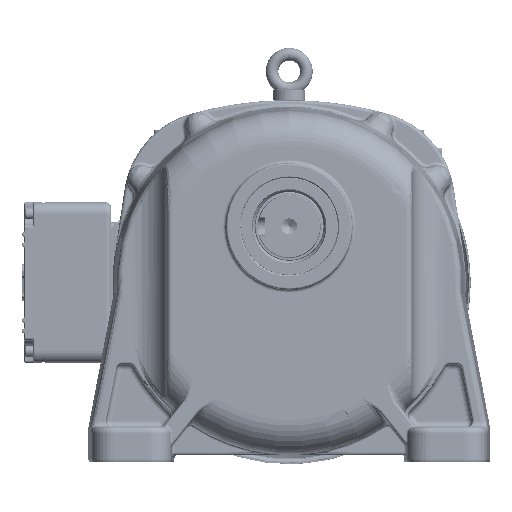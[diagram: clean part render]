
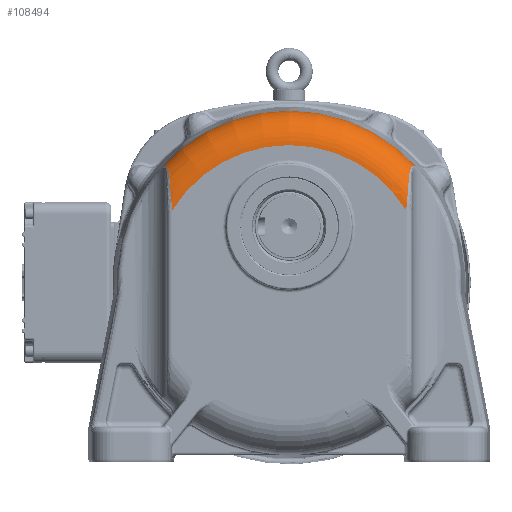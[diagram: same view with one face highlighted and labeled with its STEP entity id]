
A CAD part, front view. The second image highlights one B-rep face of the part: STEP entity #108494.
In plain terms, the highlighted toroidal (fillet/blend) face has major radius 119.862 mm and minor radius 30 mm.
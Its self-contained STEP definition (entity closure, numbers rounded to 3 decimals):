
#2624=TOROIDAL_SURFACE('',#118941,119.862,30.);
#4332=B_SPLINE_CURVE_WITH_KNOTS('',3,(#208681,#208682,#208683,#208684,#208685),
 .UNSPECIFIED.,.F.,.F.,(4,1,4),(-2.599,-1.114,0.),
 .UNSPECIFIED.);
#4334=B_SPLINE_CURVE_WITH_KNOTS('',3,(#208739,#208740,#208741,#208742,#208743,
#208744,#208745,#208746,#208747),.UNSPECIFIED.,.F.,.F.,(4,1,1,1,1,1,4),
(-2.566,-2.199,-1.833,-1.466,
-1.1,-0.367,0.),
 .UNSPECIFIED.);
#4339=B_SPLINE_CURVE_WITH_KNOTS('',3,(#208829,#208830,#208831,#208832,#208833,
#208834,#208835,#208836,#208837),.UNSPECIFIED.,.F.,.F.,(4,1,1,1,1,1,4),
(0.,0.367,1.1,1.466,1.833,
2.199,2.566),.UNSPECIFIED.);
#4340=B_SPLINE_CURVE_WITH_KNOTS('',3,(#208838,#208839,#208840,#208841,#208842),
 .UNSPECIFIED.,.F.,.F.,(4,1,4),(-2.599,-1.114,0.),
 .UNSPECIFIED.);
#12586=FACE_OUTER_BOUND('',#19252,.T.);
#19252=EDGE_LOOP('',(#86742,#86743,#86744,#86745,#86746,#86747));
#38851=CIRCLE('',#118298,119.862);
#39225=CIRCLE('',#118942,149.849);
#46263=VERTEX_POINT('',#201523);
#46264=VERTEX_POINT('',#201525);
#46786=VERTEX_POINT('',#208679);
#46788=VERTEX_POINT('',#208737);
#46790=VERTEX_POINT('',#208826);
#46791=VERTEX_POINT('',#208828);
#59699=EDGE_CURVE('',#46264,#46263,#38851,.T.);
#60570=EDGE_CURVE('',#46786,#46263,#4332,.T.);
#60573=EDGE_CURVE('',#46788,#46786,#4334,.T.);
#60580=EDGE_CURVE('',#46788,#46790,#39225,.T.);
#60581=EDGE_CURVE('',#46791,#46790,#4339,.T.);
#60582=EDGE_CURVE('',#46264,#46791,#4340,.T.);
#86742=ORIENTED_EDGE('',*,*,#60570,.F.);
#86743=ORIENTED_EDGE('',*,*,#60573,.F.);
#86744=ORIENTED_EDGE('',*,*,#60580,.T.);
#86745=ORIENTED_EDGE('',*,*,#60581,.F.);
#86746=ORIENTED_EDGE('',*,*,#60582,.F.);
#86747=ORIENTED_EDGE('',*,*,#59699,.T.);
#108494=ADVANCED_FACE('',(#12586),#2624,.T.);
#118298=AXIS2_PLACEMENT_3D('',#201526,#140914,#140915);
#118941=AXIS2_PLACEMENT_3D('',#208825,#142446,#142447);
#118942=AXIS2_PLACEMENT_3D('',#208827,#142448,#142449);
#140914=DIRECTION('center_axis',(0.,1.,0.));
#140915=DIRECTION('ref_axis',(-1.,0.,0.));
#142446=DIRECTION('center_axis',(0.,1.,0.));
#142447=DIRECTION('ref_axis',(0.,0.,1.));
#142448=DIRECTION('center_axis',(0.,-1.,0.));
#142449=DIRECTION('ref_axis',(-1.,0.,0.));
#201523=CARTESIAN_POINT('',(89.309,-190.758,61.201));
#201525=CARTESIAN_POINT('',(-114.691,-190.758,61.201));
#201526=CARTESIAN_POINT('Origin',(-12.691,-190.758,-1.75));
#208679=CARTESIAN_POINT('',(91.578,-184.758,88.438));
#208681=CARTESIAN_POINT('Ctrl Pts',(91.578,-184.758,
88.438));
#208682=CARTESIAN_POINT('Ctrl Pts',(91.187,-187.374,
83.558));
#208683=CARTESIAN_POINT('Ctrl Pts',(90.427,-190.123,
74.349));
#208684=CARTESIAN_POINT('Ctrl Pts',(89.641,-190.758,
65.118));
#208685=CARTESIAN_POINT('Ctrl Pts',(89.309,-190.758,
61.201));
#208737=CARTESIAN_POINT('',(99.254,-161.632,97.864));
#208739=CARTESIAN_POINT('Ctrl Pts',(99.254,-161.632,
97.864));
#208740=CARTESIAN_POINT('Ctrl Pts',(98.624,-162.643,
98.528));
#208741=CARTESIAN_POINT('Ctrl Pts',(97.367,-164.843,
99.668));
#208742=CARTESIAN_POINT('Ctrl Pts',(95.584,-168.703,
100.457));
#208743=CARTESIAN_POINT('Ctrl Pts',(94.09,-172.871,
99.903));
#208744=CARTESIAN_POINT('Ctrl Pts',(92.685,-178.052,97.369));
#208745=CARTESIAN_POINT('Ctrl Pts',(92.002,-181.973,
93.152));
#208746=CARTESIAN_POINT('Ctrl Pts',(91.674,-184.112,
89.643));
#208747=CARTESIAN_POINT('Ctrl Pts',(91.578,-184.758,
88.438));
#208825=CARTESIAN_POINT('Origin',(-12.691,-160.758,-1.75));
#208826=CARTESIAN_POINT('',(-124.637,-161.632,97.864));
#208827=CARTESIAN_POINT('Origin',(-12.691,-161.632,-1.75));
#208828=CARTESIAN_POINT('',(-116.96,-184.758,88.438));
#208829=CARTESIAN_POINT('Ctrl Pts',(-116.96,-184.758,
88.438));
#208830=CARTESIAN_POINT('Ctrl Pts',(-117.057,-184.112,
89.643));
#208831=CARTESIAN_POINT('Ctrl Pts',(-117.384,-181.969,
93.157));
#208832=CARTESIAN_POINT('Ctrl Pts',(-118.067,-178.053,
97.368));
#208833=CARTESIAN_POINT('Ctrl Pts',(-119.472,-172.87,
99.904));
#208834=CARTESIAN_POINT('Ctrl Pts',(-120.966,-168.704,
100.457));
#208835=CARTESIAN_POINT('Ctrl Pts',(-122.75,-164.841,
99.667));
#208836=CARTESIAN_POINT('Ctrl Pts',(-124.006,-162.643,
98.528));
#208837=CARTESIAN_POINT('Ctrl Pts',(-124.637,-161.632,
97.864));
#208838=CARTESIAN_POINT('Ctrl Pts',(-114.691,-190.758,
61.201));
#208839=CARTESIAN_POINT('Ctrl Pts',(-115.134,-190.758,
66.424));
#208840=CARTESIAN_POINT('Ctrl Pts',(-115.925,-189.92,
75.713));
#208841=CARTESIAN_POINT('Ctrl Pts',(-116.667,-186.72,
84.778));
#208842=CARTESIAN_POINT('Ctrl Pts',(-116.96,-184.758,
88.438));
